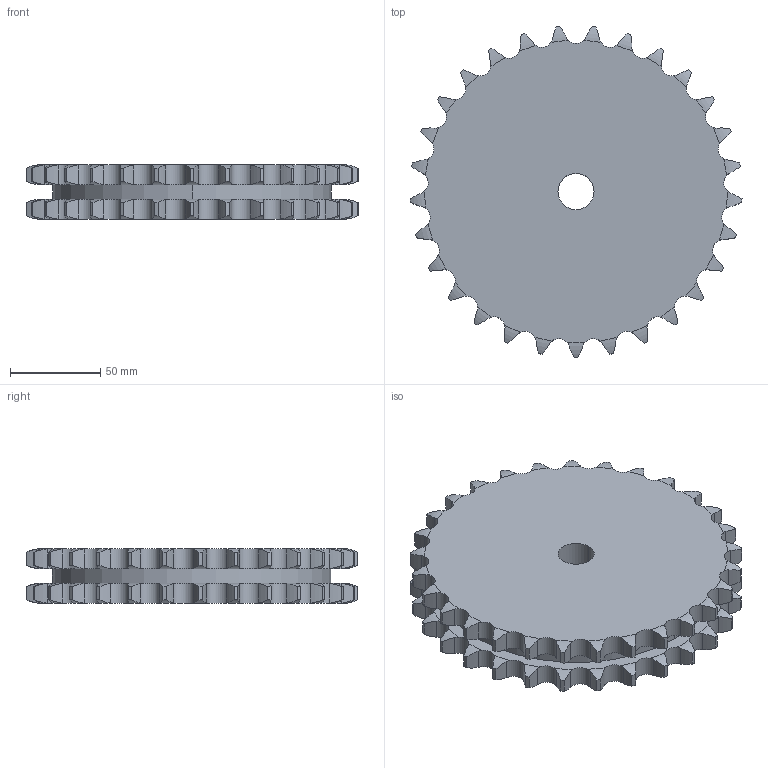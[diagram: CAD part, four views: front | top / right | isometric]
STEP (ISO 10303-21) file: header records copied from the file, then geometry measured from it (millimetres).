
FILE_DESCRIPTION((''),'2;1');
FILE_NAME('500-402-0029_PRT','2021-02-12T',('Brieden'),('Brieden'),'PRO/ENGINEER BY PARAMETRIC TECHNOLOGY CORPORATION, 2010160','PRO/ENGINEER BY PARAMETRIC TECHNOLOGY CORPORATION, 2010160','');
FILE_SCHEMA(('AUTOMOTIVE_DESIGN { 1 0 10303 214 1 1 1 1 }'));
Length unit declared in the file: millimetre
Products named in the file (1): 500-402-0029_PRT
Bounding box: 183.93 x 183.66 x 30.3 mm (x, y, z)
Volume: 653035.8 mm3; surface area: 77982.8 mm2
Topology: 1 solids, 1 shells, 356 faces, 1056 edges, 704 vertices
Faces by surface type: cylinder 236, torus 116, plane 4
Entity records: 17318 total; most frequent: CARTESIAN_POINT 5107, ORIENTED_EDGE 2112, DIRECTION 1660, PRESENTATION_STYLE_ASSIGNMENT 1057, STYLED_ITEM 1057, CURVE_STYLE 1056, EDGE_CURVE 1056, AXIS2_PLACEMENT_3D 712
